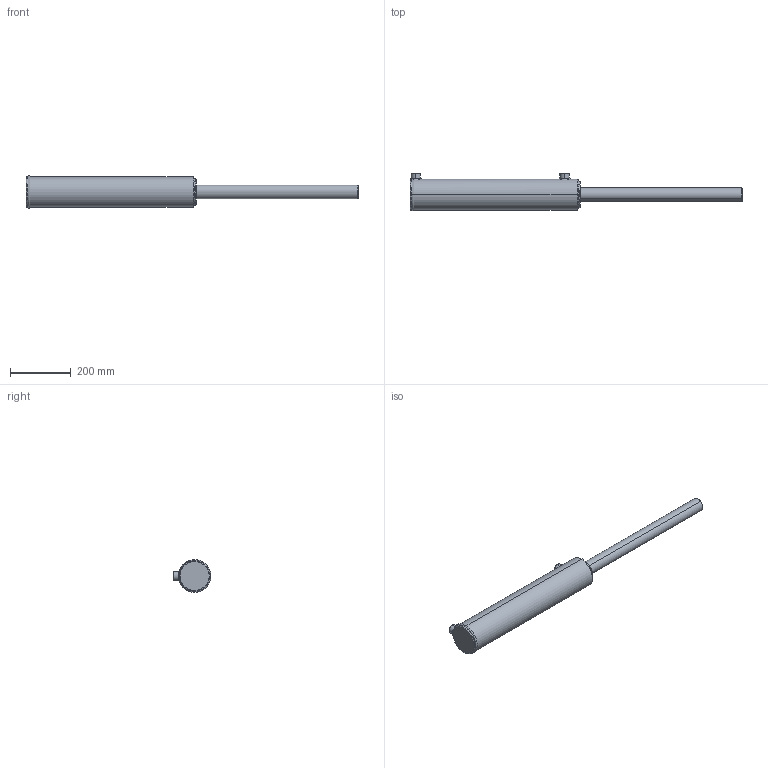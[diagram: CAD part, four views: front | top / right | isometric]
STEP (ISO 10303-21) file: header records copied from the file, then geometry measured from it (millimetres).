
FILE_DESCRIPTION (( 'STEP AP203' ), '1' );
FILE_NAME ('BL350175x457 (18) extended.STEP', '2014-11-24T03:20:51', ( '' ), ( '' ), 'SwSTEP 2.0', 'SolidWorks 2014', '' );
FILE_SCHEMA (( 'CONFIG_CONTROL_DESIGN' ));
Length unit declared in the file: millimetre
Products named in the file (3): BL350175x457 (18) extended; Spare_3.5x18; BL body 3.5_3.5x18
Assembly tree (2 placements, depth 2):
  BL350175x457 (18) extended
    BL body 3.5_3.5x18
    Spare_3.5x18
Bounding box: 1089 x 124.4 x 107.2 mm (x, y, z)
Volume: 4960204.5 mm3; surface area: 316889.8 mm2
Topology: 2 solids, 2 shells, 88 faces, 205 edges, 126 vertices
Faces by surface type: cylinder 32, plane 20, torus 17, bspline 11, cone 8
Entity records: 6022 total; most frequent: CARTESIAN_POINT 3775, DIRECTION 420, ORIENTED_EDGE 402, EDGE_CURVE 201, AXIS2_PLACEMENT_3D 181, VERTEX_POINT 126, EDGE_LOOP 101, CIRCLE 99
